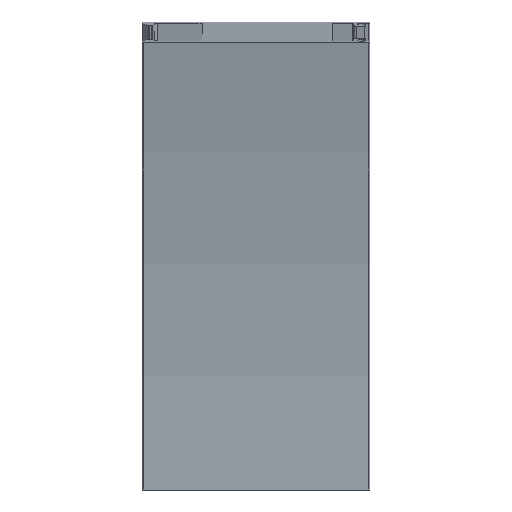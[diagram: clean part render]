
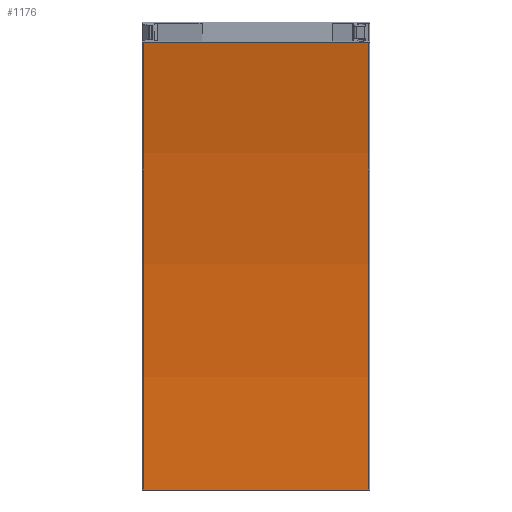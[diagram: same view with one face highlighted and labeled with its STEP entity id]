
A CAD part, left-side view. The second image highlights one B-rep face of the part: STEP entity #1176.
In plain terms, the highlighted cylindrical face has radius 722.2 mm (diameter 1444.4 mm), a partial arc.
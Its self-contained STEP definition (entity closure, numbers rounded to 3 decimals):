
#36=CYLINDRICAL_SURFACE('',#1333,722.2);
#59=LINE('',#2014,#127);
#60=LINE('',#2016,#128);
#127=VECTOR('',#1587,10.);
#128=VECTOR('',#1588,10.);
#216=FACE_OUTER_BOUND('',#282,.T.);
#282=EDGE_LOOP('',(#821,#822,#823,#824));
#366=CIRCLE('',#1332,722.2);
#367=CIRCLE('',#1334,722.2);
#481=VERTEX_POINT('',#2007);
#482=VERTEX_POINT('',#2009);
#483=VERTEX_POINT('',#2013);
#484=VERTEX_POINT('',#2015);
#620=EDGE_CURVE('',#481,#482,#366,.T.);
#621=EDGE_CURVE('',#483,#481,#59,.T.);
#622=EDGE_CURVE('',#484,#482,#60,.T.);
#623=EDGE_CURVE('',#483,#484,#367,.T.);
#821=ORIENTED_EDGE('',*,*,#621,.T.);
#822=ORIENTED_EDGE('',*,*,#620,.T.);
#823=ORIENTED_EDGE('',*,*,#622,.F.);
#824=ORIENTED_EDGE('',*,*,#623,.F.);
#1176=ADVANCED_FACE('',(#216),#36,.F.);
#1332=AXIS2_PLACEMENT_3D('',#2011,#1583,#1584);
#1333=AXIS2_PLACEMENT_3D('',#2012,#1585,#1586);
#1334=AXIS2_PLACEMENT_3D('',#2017,#1589,#1590);
#1583=DIRECTION('center_axis',(0.,-1.,0.));
#1584=DIRECTION('ref_axis',(1.,0.,0.));
#1585=DIRECTION('center_axis',(0.,-1.,0.));
#1586=DIRECTION('ref_axis',(1.,0.,0.));
#1587=DIRECTION('',(0.,-1.,0.));
#1588=DIRECTION('',(0.,-1.,0.));
#1589=DIRECTION('center_axis',(0.,-1.,0.));
#1590=DIRECTION('ref_axis',(1.,0.,0.));
#2007=CARTESIAN_POINT('',(-18.595,-41.736,0.));
#2009=CARTESIAN_POINT('',(-43.203,-41.736,186.919));
#2011=CARTESIAN_POINT('Origin',(-740.795,-41.736,0.));
#2012=CARTESIAN_POINT('Origin',(-740.795,5.314,0.));
#2013=CARTESIAN_POINT('',(-18.595,52.364,0.));
#2014=CARTESIAN_POINT('',(-18.595,52.364,0.));
#2015=CARTESIAN_POINT('',(-43.203,52.364,186.919));
#2016=CARTESIAN_POINT('',(-43.203,52.364,186.919));
#2017=CARTESIAN_POINT('Origin',(-740.795,52.364,0.));
